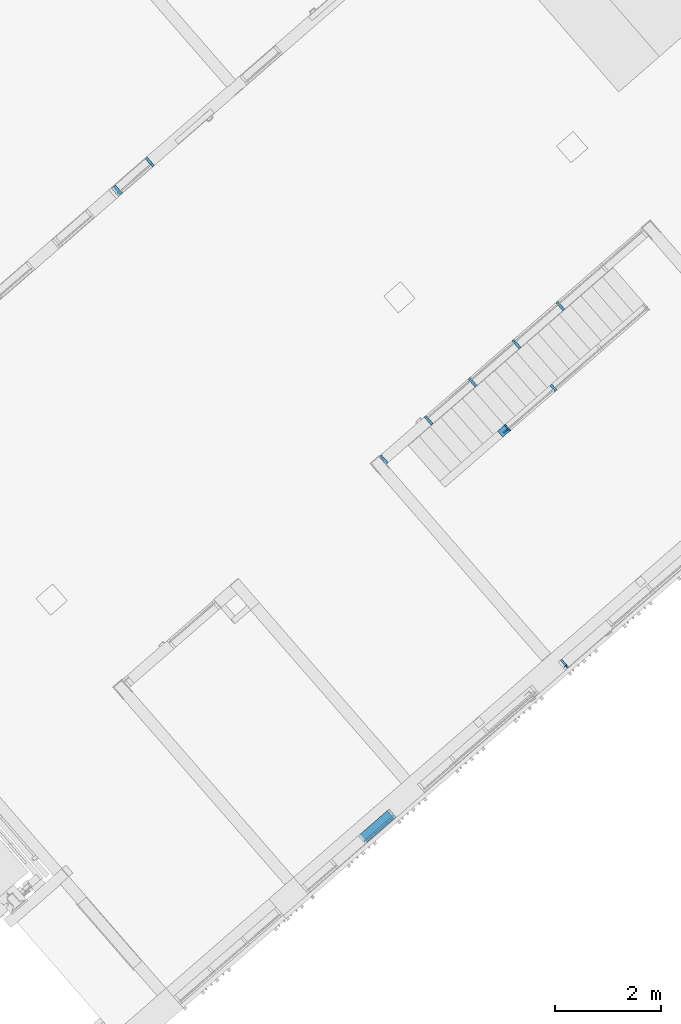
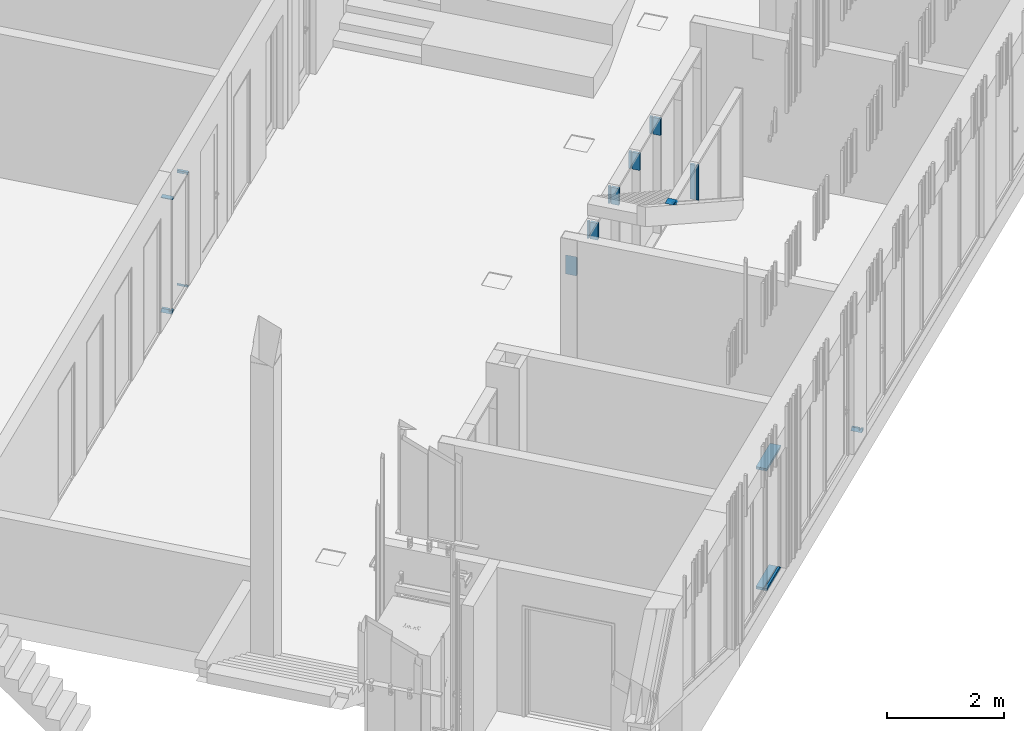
# One storey, part 15 of 124: 17 discrete accessories, 5 elements without a shape of their own.
"""IFC2X3 building model written with IfcOpenShell, lengths in millimetres."""

import ifcopenshell
import ifcopenshell.guid

model = None  # the IFC model being written
_history = None  # IfcOwnerHistory: only IFC2X3 demands one
_inside = {}  # id of a spatial element -> (the spatial element, [elements in it])
_under = {}  # id of a project, library or spatial element -> (it, [spatial elements below it])
_declared = {}  # id of a project -> (the project, [libraries it declares])
_typed = {}  # id of a type object -> (the type object, [elements of that type])
_made_of = {}  # id of a material, layer set ... -> (it, [elements and type objects made of it])


def new_model(schema):
    """Start an empty IFC model of exactly this schema.

    Asked for "IFC4X3", IfcOpenShell would pick the latest addendum, in which some entities
    have other attributes; the version numbers below select the first issue.
    IFC2X3 requires an IfcOwnerHistory on every rooted entity: one is made here for all.
    """
    global model, _history
    if schema == "IFC4X3":
        model = ifcopenshell.file(schema_version=(4, 3, 0, 0))
    else:
        model = ifcopenshell.file(schema=schema)
    _inside.clear()
    _under.clear()
    _declared.clear()
    _typed.clear()
    _made_of.clear()
    _history = None
    if model.schema == "IFC2X3":
        org = make("IfcOrganization", Name="unknown")
        user = make(
            "IfcPersonAndOrganization",
            ThePerson=make("IfcPerson", FamilyName="unknown"),
            TheOrganization=org,
        )
        app = make(
            "IfcApplication",
            ApplicationDeveloper=org,
            Version="unknown",
            ApplicationFullName="unknown",
            ApplicationIdentifier="unknown",
        )
        _history = make(
            "IfcOwnerHistory",
            OwningUser=user,
            OwningApplication=app,
            ChangeAction="ADDED",
            CreationDate=0,
        )
    return model


def make(cls, **values):
    """One entity of the class cls with the attributes given. An attribute that is None is left unset."""
    return model.create_entity(
        cls, **{name: value for name, value in values.items() if value is not None}
    )


def entity(cls, *values):
    """Any entity or typed value of the class cls, its attributes in the order of the schema. None: left unset."""
    e = model.create_entity(cls)
    for i, value in enumerate(values):
        if value is not None:
            e[i] = value
    return e


def rooted(cls, **values):
    """An entity with a GlobalId (a new one), such as an element, a storey or a relation."""
    return make(cls, GlobalId=ifcopenshell.guid.new(), OwnerHistory=_history, **values)


def si_unit(unit_type, name, prefix=None):
    """IfcSIUnit, for example si_unit("LENGTHUNIT", "METRE", prefix="MILLI")."""
    return make("IfcSIUnit", UnitType=unit_type, Prefix=prefix, Name=name)


def converted_unit(unit_type, name, factor, base, dimensions=None, offset=None):
    """IfcConversionBasedUnit, such as the inch: factor (a typed value) times the base unit."""
    return make(
        "IfcConversionBasedUnit"
        if offset is None
        else "IfcConversionBasedUnitWithOffset",
        ConversionOffset=offset,
        Dimensions=None
        if dimensions is None
        else entity("IfcDimensionalExponents", *dimensions),
        UnitType=unit_type,
        Name=name,
        ConversionFactor=make(
            "IfcMeasureWithUnit", ValueComponent=factor, UnitComponent=base
        ),
    )


def derived_unit(unit_type, elements):
    """IfcDerivedUnit: a product of units, each with its exponent."""
    return make(
        "IfcDerivedUnit",
        Elements=[
            make("IfcDerivedUnitElement", Unit=unit, Exponent=power)
            for unit, power in elements
        ],
        UnitType=unit_type,
    )


def money_unit(currency):
    """IfcMonetaryUnit."""
    return make("IfcMonetaryUnit", Currency=currency)


def assignment(units):
    """IfcUnitAssignment: the units of a project."""
    return None if units is None else make("IfcUnitAssignment", Units=units)


def point(xyz):
    """IfcCartesianPoint."""
    return None if xyz is None else make("IfcCartesianPoint", Coordinates=xyz)


def direction(xyz):
    """IfcDirection."""
    return None if xyz is None else make("IfcDirection", DirectionRatios=xyz)


def frame(location, z_axis=None, x_axis=None):
    """IfcAxis2Placement3D, a coordinate frame: its origin and axes. An axis left out is left unset."""
    return make(
        "IfcAxis2Placement3D",
        Location=point(location),
        Axis=direction(z_axis),
        RefDirection=direction(x_axis),
    )


def origin_with_axes():
    """The frame at (0, 0, 0) with the z axis (0, 0, 1) and the x axis (1, 0, 0) written out."""
    return frame((0.0, 0.0, 0.0), z_axis=(0.0, 0.0, 1.0), x_axis=(1.0, 0.0, 0.0))


def place(relative_to, where):
    """IfcLocalPlacement: puts the frame where relative to a parent placement (None: the world)."""
    return make(
        "IfcLocalPlacement", PlacementRelTo=relative_to, RelativePlacement=where
    )


def context(
    kind, dimensions, precision=None, world=None, true_north=None, identifier=None
):
    """IfcGeometricRepresentationContext, for example the 3D "Model" context."""
    return make(
        "IfcGeometricRepresentationContext",
        ContextIdentifier=identifier,
        ContextType=kind,
        CoordinateSpaceDimension=dimensions,
        Precision=precision,
        WorldCoordinateSystem=world,
        TrueNorth=true_north,
    )


def subcontext(parent, identifier, kind, view, scale=None):
    """IfcGeometricRepresentationSubContext, for example "Body" below "Model"."""
    return make(
        "IfcGeometricRepresentationSubContext",
        ContextIdentifier=identifier,
        ContextType=kind,
        ParentContext=parent,
        TargetScale=scale,
        TargetView=view,
    )


def project(units=None, contexts=None):
    """IfcProject with its units and contexts."""
    return rooted(
        "IfcProject",
        Name="project",
        RepresentationContexts=contexts,
        UnitsInContext=assignment(units),
    )


def spatial(cls, under=None, at=None, **own):
    """A site, building, storey or space (cls), placed at a placement, below another one or the project."""
    s = rooted(cls, ObjectPlacement=at, **own)
    if under is not None:
        _under.setdefault(under.id(), (under, []))[1].append(s)
    return s


def polyline(points):
    """IfcPolyline through the points."""
    return make("IfcPolyline", Points=[point(p) for p in points])


def outline(outer, holes=None, kind="AREA"):
    """IfcArbitraryClosedProfileDef: a profile drawn as a closed curve; with holes, ...WithVoids."""
    if holes is None:
        return make("IfcArbitraryClosedProfileDef", ProfileType=kind, OuterCurve=outer)
    return make(
        "IfcArbitraryProfileDefWithVoids",
        ProfileType=kind,
        OuterCurve=outer,
        InnerCurves=holes,
    )


def extrude(swept, where, along, depth):
    """IfcExtrudedAreaSolid: the profile swept, set in the frame where, extruded along a direction by depth."""
    return make(
        "IfcExtrudedAreaSolid",
        SweptArea=swept,
        Position=where,
        ExtrudedDirection=direction(along),
        Depth=depth,
    )


def clip(a, b, op="DIFFERENCE"):
    """IfcBooleanClippingResult: the solid a cut by the half space b."""
    return make(
        "IfcBooleanClippingResult", Operator=op, FirstOperand=a, SecondOperand=b
    )


def halfspace(plane, agree):
    """IfcHalfSpaceSolid: all space on one side of the plane z = 0 of the frame plane."""
    return make(
        "IfcHalfSpaceSolid",
        BaseSurface=make("IfcPlane", Position=plane),
        AgreementFlag=agree,
    )


def shape(context_of_items, identifier, shape_type, items):
    """IfcShapeRepresentation: the items that make up one representation, for example the "Body"."""
    return make(
        "IfcShapeRepresentation",
        ContextOfItems=context_of_items,
        RepresentationIdentifier=identifier,
        RepresentationType=shape_type,
        Items=items,
    )


def material(Name=None, Category=None):
    """IfcMaterial."""
    return make("IfcMaterial", Name=Name, Category=Category)


def material_list(materials):
    """IfcMaterialList."""
    return make("IfcMaterialList", Materials=materials)


def made_of(thing, what):
    """Note that an element or type object is made of a material, layer set ...; save() writes the relation."""
    if what is not None:
        _made_of.setdefault(what.id(), (what, []))[1].append(thing)
    return thing


def type_object(cls, material=None, **own):
    """A type object (cls), such as IfcWallType, which elements share."""
    return made_of(rooted(cls, **own), material)


def element(
    cls,
    number,
    at=None,
    inside=None,
    cuts=None,
    type_object=None,
    material=None,
    context=None,
    identifier="Body",
    shape_type=None,
    held_by="IfcProductDefinitionShape",
    body=None,
    shapes=None,
    **own,
):
    """One element of the class cls, such as IfcWall. Its Tag is "e" and its number.

    at: its placement. inside: the storey or other place that contains it. cuts: it is an
    opening in that element (IfcRelVoidsElement). A single representation is given by context,
    identifier, shape_type and body (its items); several are given by shapes. held_by: the class
    of the entity that holds the representations. save() writes the other relations.
    """
    e = rooted(cls, Tag="e%d" % number, ObjectPlacement=at, **own)
    if body is not None:
        shapes = [shape(context, identifier, shape_type, body)]
    if shapes is not None:
        e.Representation = make(held_by, Representations=shapes)
    if inside is not None:
        _inside.setdefault(inside.id(), (inside, []))[1].append(e)
    if cuts is not None:
        rooted(
            "IfcRelVoidsElement", RelatingBuildingElement=cuts, RelatedOpeningElement=e
        )
    if type_object is not None:
        _typed.setdefault(type_object.id(), (type_object, []))[1].append(e)
    return made_of(e, material)


def aggregate(whole, parts):
    """IfcRelAggregates: a whole, such as a stair, and the parts it consists of."""
    return rooted("IfcRelAggregates", RelatingObject=whole, RelatedObjects=parts)


def save(model, path):
    """Write the relations noted so far, then the file.

    IfcRelAggregates (storeys below a building ...), IfcRelContainedInSpatialStructure (elements
    in a storey), IfcRelDefinesByType, IfcRelAssociatesMaterial and IfcRelDeclares: one each for
    every whole, place, type object, material and project.
    """
    for whole, parts in _under.values():
        aggregate(whole, parts)
    for where, things in _inside.values():
        rooted(
            "IfcRelContainedInSpatialStructure",
            RelatedElements=things,
            RelatingStructure=where,
        )
    for kind, things in _typed.values():
        rooted("IfcRelDefinesByType", RelatedObjects=things, RelatingType=kind)
    for what, things in _made_of.values():
        rooted("IfcRelAssociatesMaterial", RelatedObjects=things, RelatingMaterial=what)
    for by, libraries in _declared.values():
        rooted("IfcRelDeclares", RelatingContext=by, RelatedDefinitions=libraries)
    model.write(path)


model = new_model("IFC2X3")

# Units and contexts
model_context = context("Model", 3, precision=1e-05, world=origin_with_axes(), true_north=direction((0.0, 1.0)))
body_context = subcontext(model_context, "Body", "Model", "MODEL_VIEW")
ifc_project = project(units=[si_unit("LENGTHUNIT", "METRE", prefix="MILLI"), si_unit("AREAUNIT", "SQUARE_METRE"), si_unit("VOLUMEUNIT", "CUBIC_METRE"), converted_unit("PLANEANGLEUNIT", "DEGREE", entity("IfcPlaneAngleMeasure", 0.0174532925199), si_unit("PLANEANGLEUNIT", "RADIAN"), dimensions=[0, 0, 0, 0, 0, 0, 0]), si_unit("SOLIDANGLEUNIT", "STERADIAN"), money_unit("EUR"), converted_unit("TIMEUNIT", "Year", entity("IfcTimeMeasure", 31556926.0), si_unit("TIMEUNIT", "SECOND"), dimensions=[0, 0, 1, 0, 0, 0, 0]), si_unit("MASSUNIT", "GRAM", prefix="KILO"), si_unit("THERMODYNAMICTEMPERATUREUNIT", "DEGREE_CELSIUS"), si_unit("LUMINOUSINTENSITYUNIT", "LUMEN"), si_unit("ENERGYUNIT", "JOULE", prefix="MEGA"), derived_unit("THERMALCONDUCTANCEUNIT", [(si_unit("POWERUNIT", "WATT"), 1), (si_unit("LENGTHUNIT", "METRE"), -1), (si_unit("THERMODYNAMICTEMPERATUREUNIT", "KELVIN"), -1)]), derived_unit("SPECIFICHEATCAPACITYUNIT", [(si_unit("ENERGYUNIT", "JOULE"), 1), (si_unit("MASSUNIT", "GRAM", prefix="KILO"), -1), (si_unit("THERMODYNAMICTEMPERATUREUNIT", "KELVIN"), -1)]), derived_unit("MASSDENSITYUNIT", [(si_unit("MASSUNIT", "GRAM", prefix="KILO"), 1), (si_unit("VOLUMEUNIT", "CUBIC_METRE"), -1)])], contexts=[model_context])

# Site, building, storey
site_placement = place(None, origin_with_axes())
site = spatial("IfcSite", under=ifc_project, at=site_placement, Name="Site", CompositionType="ELEMENT")
building_placement = place(site_placement, origin_with_axes())
building = spatial("IfcBuilding", under=site, at=building_placement, Name="Building", CompositionType="ELEMENT")
storey_placement = place(building_placement, frame((0.0, 0.0, -1615.0), z_axis=(0.0, 0.0, 1.0), x_axis=(1.0, 0.0, 0.0)))
storey = spatial("IfcBuildingStorey", under=building, at=storey_placement, Name="0  korrus", CompositionType="ELEMENT", Elevation=-1615.0)

# Curtain wall, discrete accessories
curtain_wall_type_1 = type_object("IfcCurtainWallType", Name="KS-07", PredefinedType="NOTDEFINED")
curtain_wall_1_placement = place(storey_placement, frame((149951.417943, 91506.9576387, 0.0), z_axis=(0.0, 0.0, 1.0), x_axis=(1.0, 0.0, 0.0)))
curtain_wall_1 = element("IfcCurtainWall", 1, at=curtain_wall_1_placement, inside=storey, type_object=curtain_wall_type_1, Name="Klaas-sein")
ifc_material_1 = material(Name="Aluminium MUST")
ifc_material_list_1 = material_list([ifc_material_1, ifc_material_1, ifc_material_1])
discrete_accessory_type_1 = type_object("IfcDiscreteAccessoryType", Name="50 x 200")
discrete_accessory_1_placement = place(curtain_wall_1_placement, frame((330.185462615, 287.025843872, 2400.00001788), z_axis=(-0.754709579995, -0.656059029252, 0.0), x_axis=(0.0, 0.0, -1.0)))
discrete_accessory_1 = element("IfcDiscreteAccessory", 2, at=discrete_accessory_1_placement, type_object=discrete_accessory_type_1, material=ifc_material_list_1, Name="KS-07 profiil", context=body_context, shape_type="Clipping", body=[
    clip(extrude(outline(polyline([(9.99999999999, 25.0), (-9.99999999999, 25.0), (-9.99999999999, 0.0), (9.99999999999, 0.0), (9.99999999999, 25.0)])), frame((0.0, 0.0, 0.0), z_axis=(0.0, 0.0, 1.0), x_axis=(0.0, -1.0, 0.0)), (0.0, 0.0, 1.0), 50.0000298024), halfspace(frame((0.0, 0.0, 0.0), z_axis=(-0.707106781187, 0.0, 0.707106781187), x_axis=(0.0, -1.0, 0.0)), True)),
    clip(extrude(outline(polyline([(150.0, 50.0), (9.99999999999, 50.0), (9.99999999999, 0.0), (150.0, 0.0), (150.0, 50.0)])), frame((0.0, 0.0, 0.0), z_axis=(0.0, 0.0, 1.0), x_axis=(0.0, -1.0, 0.0)), (0.0, 0.0, 1.0), 50.0000298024), halfspace(frame((0.0, 0.0, 0.0), z_axis=(-0.707106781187, 0.0, 0.707106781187), x_axis=(0.0, -1.0, 0.0)), True)),
    clip(extrude(outline(polyline([(-50.0, 0.0), (-9.99999999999, 0.0), (-9.99999999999, 50.0), (-50.0, 50.0), (-50.0, 0.0)])), frame((0.0, 0.0, 0.0), z_axis=(0.0, 0.0, 1.0), x_axis=(0.0, -1.0, 0.0)), (0.0, 0.0, 1.0), 50.0000298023), halfspace(frame((0.0, 0.0, 0.0), z_axis=(-0.707106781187, 0.0, 0.707106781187), x_axis=(0.0, -1.0, 0.0)), True)),
])
discrete_accessory_2_placement = place(curtain_wall_1_placement, frame((292.449961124, 254.222872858, 0.0), z_axis=(0.754709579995, 0.656059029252, 0.0), x_axis=(0.0, 0.0, 1.0)))
discrete_accessory_2 = element("IfcDiscreteAccessory", 3, at=discrete_accessory_2_placement, type_object=discrete_accessory_type_1, material=ifc_material_list_1, Name="KS-07 profiil", context=body_context, shape_type="Clipping", body=[
    clip(extrude(outline(polyline([(-10.0, -25.0), (9.99999999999, -25.0), (10.0, 0.0), (-10.0, 0.0), (-10.0, -25.0)])), frame((0.0, 0.0, 0.0), z_axis=(0.0, 0.0, 1.0), x_axis=(0.0, 1.0, 0.0)), (0.0, 0.0, 1.0), 50.0000298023), halfspace(frame((25.0000149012, 0.0, 25.0000149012), z_axis=(-0.707106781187, 0.0, -0.707106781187), x_axis=(0.0, 1.0, 0.0)), True)),
    clip(extrude(outline(polyline([(-150.0, -50.0), (-10.0, -50.0), (-10.0, 0.0), (-150.0, 0.0), (-150.0, -50.0)])), frame((0.0, 0.0, 0.0), z_axis=(0.0, 0.0, 1.0), x_axis=(0.0, 1.0, 0.0)), (0.0, 0.0, 1.0), 50.0000298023), halfspace(frame((25.0000149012, 0.0, 25.0000149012), z_axis=(-0.707106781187, 0.0, -0.707106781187), x_axis=(0.0, 1.0, 0.0)), True)),
    clip(extrude(outline(polyline([(50.0, 0.0), (10.0, 0.0), (9.99999999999, -50.0), (50.0, -50.0), (50.0, 0.0)])), frame((0.0, 0.0, 0.0), z_axis=(0.0, 0.0, 1.0), x_axis=(0.0, 1.0, 0.0)), (0.0, 0.0, 1.0), 50.0000298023), halfspace(frame((25.0000149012, 0.0, 25.0000149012), z_axis=(-0.707106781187, 0.0, -0.707106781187), x_axis=(0.0, 1.0, 0.0)), True)),
])
discrete_accessory_3_placement = place(curtain_wall_1_placement, frame((-273.582223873, -237.821399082, 2400.00001788), z_axis=(-0.754709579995, -0.656059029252, 0.0), x_axis=(0.0, 0.0, -1.0)))
discrete_accessory_3 = element("IfcDiscreteAccessory", 4, at=discrete_accessory_3_placement, type_object=discrete_accessory_type_1, material=ifc_material_list_1, Name="KS-07 profiil", context=body_context, shape_type="Clipping", body=[
    clip(extrude(outline(polyline([(10.0, 25.0), (-10.0, 25.0), (-9.99999999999, 0.0), (9.99999999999, 0.0), (10.0, 25.0)])), frame((0.0, 0.0, 0.0), z_axis=(0.0, 0.0, 1.0), x_axis=(0.0, -1.0, 0.0)), (0.0, 0.0, 1.0), 100.000023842), halfspace(frame((50.0000119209, 0.0, 50.0000119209), z_axis=(-0.707106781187, 0.0, -0.707106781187), x_axis=(0.0, 1.0, 0.0)), True)),
    clip(extrude(outline(polyline([(150.0, 50.0), (9.99999999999, 50.0), (9.99999999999, 0.0), (150.0, 0.0), (150.0, 50.0)])), frame((0.0, 0.0, 0.0), z_axis=(0.0, 0.0, 1.0), x_axis=(0.0, -1.0, 0.0)), (0.0, 0.0, 1.0), 100.000023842), halfspace(frame((50.0000119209, 0.0, 50.0000119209), z_axis=(-0.707106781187, 0.0, -0.707106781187), x_axis=(0.0, 1.0, 0.0)), True)),
    clip(extrude(outline(polyline([(-50.0, 0.0), (-9.99999999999, 0.0), (-9.99999999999, 50.0), (-50.0, 50.0), (-50.0, 0.0)])), frame((0.0, 0.0, 0.0), z_axis=(0.0, 0.0, 1.0), x_axis=(0.0, -1.0, 0.0)), (0.0, 0.0, 1.0), 100.000023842), halfspace(frame((50.0000119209, 0.0, 50.0000119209), z_axis=(-0.707106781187, 0.0, -0.707106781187), x_axis=(0.0, 1.0, 0.0)), True)),
])
discrete_accessory_4_placement = place(curtain_wall_1_placement, frame((-349.053199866, -303.427317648, 0.0), z_axis=(0.754709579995, 0.656059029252, 0.0), x_axis=(0.0, 0.0, 1.0)))
discrete_accessory_4 = element("IfcDiscreteAccessory", 5, at=discrete_accessory_4_placement, type_object=discrete_accessory_type_1, material=ifc_material_list_1, Name="KS-07 profiil", context=body_context, shape_type="Clipping", body=[
    clip(extrude(outline(polyline([(-10.0, -25.0), (9.99999999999, -25.0), (9.99999999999, 0.0), (-10.0, 0.0), (-10.0, -25.0)])), frame((0.0, 0.0, 0.0), z_axis=(0.0, 0.0, 1.0), x_axis=(0.0, 1.0, 0.0)), (0.0, 0.0, 1.0), 100.000023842), halfspace(frame((0.0, 0.0, 0.0), z_axis=(-0.707106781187, 0.0, 0.707106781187), x_axis=(0.0, -1.0, 0.0)), True)),
    clip(extrude(outline(polyline([(-150.0, -50.0), (-10.0, -50.0), (-10.0, 0.0), (-150.0, 0.0), (-150.0, -50.0)])), frame((0.0, 0.0, 0.0), z_axis=(0.0, 0.0, 1.0), x_axis=(0.0, 1.0, 0.0)), (0.0, 0.0, 1.0), 100.000023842), halfspace(frame((0.0, 0.0, 0.0), z_axis=(-0.707106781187, 0.0, 0.707106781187), x_axis=(0.0, -1.0, 0.0)), True)),
    clip(extrude(outline(polyline([(50.0, 0.0), (9.99999999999, 0.0), (9.99999999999, -50.0), (50.0, -50.0), (50.0, 0.0)])), frame((0.0, 0.0, 0.0), z_axis=(0.0, 0.0, 1.0), x_axis=(0.0, 1.0, 0.0)), (0.0, 0.0, 1.0), 100.000023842), halfspace(frame((0.0, 0.0, 0.0), z_axis=(-0.707106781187, 0.0, 0.707106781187), x_axis=(0.0, -1.0, 0.0)), True)),
])
aggregate(curtain_wall_1, [discrete_accessory_1, discrete_accessory_2, discrete_accessory_3, discrete_accessory_4])

# Curtain wall, discrete accessory
curtain_wall_type_2 = type_object("IfcCurtainWallType", Name="KLF-04", PredefinedType="NOTDEFINED")
curtain_wall_2_placement = place(storey_placement, frame((162346.343492, 85970.7645105, 0.0), z_axis=(0.0, 0.0, 1.0), x_axis=(1.0, 0.0, 0.0)))
curtain_wall_2 = element("IfcCurtainWall", 6, at=curtain_wall_2_placement, inside=storey, type_object=curtain_wall_type_2, Name="Klaasfassaad")
discrete_accessory_type_2 = type_object("IfcDiscreteAccessoryType", Name="50 x 200")
discrete_accessory_5_placement = place(curtain_wall_2_placement, frame((-4290.53742954, -3729.68008892, 0.0), z_axis=(0.754711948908, 0.65605630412, 0.0), x_axis=(0.0, 0.0, 1.0)))
discrete_accessory_5 = element("IfcDiscreteAccessory", 7, at=discrete_accessory_5_placement, type_object=discrete_accessory_type_2, Name="KLF-04 profiil", context=body_context, shape_type="Clipping", body=[
    clip(extrude(outline(polyline([(-10.0, -25.0), (10.0, -25.0), (10.0, 0.0), (-10.0, 0.0), (-10.0, -25.0)])), frame((0.0, 0.0, 0.0), z_axis=(0.0, 0.0, 1.0), x_axis=(0.0, 1.0, 0.0)), (0.0, 0.0, 1.0), 88.2883319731), halfspace(frame((0.0, 0.0, 0.0), z_axis=(-0.707106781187, 0.0, 0.707106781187), x_axis=(0.0, -1.0, 0.0)), True)),
    clip(extrude(outline(polyline([(-150.0, -50.0), (-10.0, -50.0), (-10.0, 0.0), (-150.0, 0.0), (-150.0, -50.0)])), frame((0.0, 0.0, 0.0), z_axis=(0.0, 0.0, 1.0), x_axis=(0.0, 1.0, 0.0)), (0.0, 0.0, 1.0), 88.2883319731), halfspace(frame((0.0, 0.0, 0.0), z_axis=(-0.707106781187, 0.0, 0.707106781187), x_axis=(0.0, -1.0, 0.0)), True)),
    clip(extrude(outline(polyline([(50.0, 0.0), (10.0, 0.0), (10.0, -50.0), (50.0, -50.0), (50.0, 0.0)])), frame((0.0, 0.0, 0.0), z_axis=(0.0, 0.0, 1.0), x_axis=(0.0, 1.0, 0.0)), (0.0, 0.0, 1.0), 88.2883319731), halfspace(frame((0.0, 0.0, 0.0), z_axis=(-0.707106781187, 0.0, 0.707106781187), x_axis=(0.0, -1.0, 0.0)), True)),
])
aggregate(curtain_wall_2, [discrete_accessory_5])

# Curtain wall, discrete accessories
curtain_wall_type_3 = type_object("IfcCurtainWallType", Name="KS-14", PredefinedType="NOTDEFINED")
curtain_wall_3_placement = place(storey_placement, frame((158378.483684, 89491.1525306, -3.95351700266e-05), z_axis=(0.0, 0.0, 1.0), x_axis=(1.0, 0.0, 0.0)))
curtain_wall_3 = element("IfcCurtainWall", 8, at=curtain_wall_3_placement, inside=storey, type_object=curtain_wall_type_3, Name="Klaas-sein")
ifc_material_list_2 = material_list([ifc_material_1, ifc_material_1])
discrete_accessory_type_3 = type_object("IfcDiscreteAccessoryType", Name="50 x 200")
discrete_accessory_6_placement = place(curtain_wall_3_placement, frame((-2075.45134472, -1804.16233075, 2100.00003954), z_axis=(0.0, 0.0, 1.0), x_axis=(0.754709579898, 0.656059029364, 0.0)))
discrete_accessory_6 = element("IfcDiscreteAccessory", 9, at=discrete_accessory_6_placement, type_object=discrete_accessory_type_3, material=ifc_material_list_2, Name="KS-14 profiil", context=body_context, shape_type="SweptSolid", body=[
    extrude(outline(polyline([(-12.3071492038, -23.9485715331), (79.5411149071, -129.607912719), (117.276593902, -96.8049612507), (25.4283297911, 8.85437993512), (-12.3071492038, -23.9485715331)])), frame((0.0, 0.0, 0.0), z_axis=(0.0, 0.0, 1.0), x_axis=(0.754709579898, -0.656059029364, 0.0)), (0.0, 0.0, 1.0), 350.000032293),
    extrude(outline(polyline([(-25.4283297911, -8.85437993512), (12.3071492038, 23.9485715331), (-13.9352119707, 54.136954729), (-51.6706909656, 21.3340032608), (-25.4283297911, -8.85437993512)])), frame((0.0, 0.0, 0.0), z_axis=(0.0, 0.0, 1.0), x_axis=(0.754709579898, -0.656059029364, 0.0)), (0.0, 0.0, 1.0), 350.000032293),
])
discrete_accessory_7_placement = place(curtain_wall_3_placement, frame((-2905.63188261, -2525.82726305, 2100.00003954), z_axis=(0.0, 0.0, 1.0), x_axis=(0.754709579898, 0.656059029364, 0.0)))
discrete_accessory_7 = element("IfcDiscreteAccessory", 10, at=discrete_accessory_7_placement, type_object=discrete_accessory_type_3, material=ifc_material_list_2, Name="KS-14 profiil", context=body_context, shape_type="SweptSolid", body=[
    extrude(outline(polyline([(-12.3071492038, -23.9485715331), (79.5411149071, -129.607912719), (117.276593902, -96.8049612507), (25.4283297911, 8.85437993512), (-12.3071492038, -23.9485715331)])), frame((0.0, 0.0, 0.0), z_axis=(0.0, 0.0, 1.0), x_axis=(0.754709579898, -0.656059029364, 0.0)), (0.0, 0.0, 1.0), 350.000032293),
    extrude(outline(polyline([(-25.4283297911, -8.85437993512), (12.3071492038, 23.9485715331), (-13.9352119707, 54.136954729), (-51.6706909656, 21.3340032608), (-25.4283297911, -8.85437993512)])), frame((0.0, 0.0, 0.0), z_axis=(0.0, 0.0, 1.0), x_axis=(0.754709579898, -0.656059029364, 0.0)), (0.0, 0.0, 1.0), 350.000032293),
])
discrete_accessory_8_placement = place(curtain_wall_3_placement, frame((-3773.54789949, -3280.29514682, 2100.00003954), z_axis=(0.0, 0.0, 1.0), x_axis=(0.754709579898, 0.656059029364, 0.0)))
discrete_accessory_8 = element("IfcDiscreteAccessory", 11, at=discrete_accessory_8_placement, type_object=discrete_accessory_type_3, Name="KS-14 profiil", context=body_context, shape_type="Clipping", body=[
    clip(extrude(outline(polyline([(25.4283297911, 8.85437993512), (12.3071492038, 23.9485715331), (-6.56059029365, 7.54709579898), (6.56059029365, -7.54709579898), (25.4283297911, 8.85437993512)])), frame((0.0, 0.0, 0.0), z_axis=(0.0, 0.0, 1.0), x_axis=(0.754709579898, -0.656059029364, 0.0)), (0.0, 0.0, 1.0), 400.000032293), halfspace(frame((200.000016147, 0.0, 200.000016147), z_axis=(-0.707106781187, 0.0, -0.707106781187), x_axis=(0.0, 1.0, 0.0)), True)),
    clip(extrude(outline(polyline([(136.144333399, -80.4034855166), (44.2960692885, 25.2558556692), (6.56059029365, -7.54709579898), (98.4088544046, -113.206436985), (136.144333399, -80.4034855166)])), frame((0.0, 0.0, 0.0), z_axis=(0.0, 0.0, 1.0), x_axis=(0.754709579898, -0.656059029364, 0.0)), (0.0, 0.0, 1.0), 400.000032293), halfspace(frame((200.000016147, 0.0, 200.000016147), z_axis=(-0.707106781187, 0.0, -0.707106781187), x_axis=(0.0, 1.0, 0.0)), True)),
    clip(extrude(outline(polyline([(-32.8029514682, 37.7354789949), (-6.56059029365, 7.54709579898), (31.1748887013, 40.3500472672), (4.93252752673, 70.5384304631), (-32.8029514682, 37.7354789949)])), frame((0.0, 0.0, 0.0), z_axis=(0.0, 0.0, 1.0), x_axis=(0.754709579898, -0.656059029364, 0.0)), (0.0, 0.0, 1.0), 400.000032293), halfspace(frame((200.000016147, 0.0, 200.000016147), z_axis=(-0.707106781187, 0.0, -0.707106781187), x_axis=(0.0, 1.0, 0.0)), True)),
])
discrete_accessory_9_placement = place(curtain_wall_3_placement, frame((-1245.27080683, -1082.49739845, 2100.00003954), z_axis=(0.0, 0.0, 1.0), x_axis=(0.754709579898, 0.656059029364, 0.0)))
discrete_accessory_9 = element("IfcDiscreteAccessory", 12, at=discrete_accessory_9_placement, type_object=discrete_accessory_type_3, material=ifc_material_list_2, Name="KS-14 profiil", context=body_context, shape_type="SweptSolid", body=[
    extrude(outline(polyline([(-12.3071492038, -23.9485715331), (79.5411149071, -129.607912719), (117.276593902, -96.8049612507), (25.4283297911, 8.85437993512), (-12.3071492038, -23.9485715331)])), frame((0.0, 0.0, 0.0), z_axis=(0.0, 0.0, 1.0), x_axis=(0.754709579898, -0.656059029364, 0.0)), (0.0, 0.0, 1.0), 350.000032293),
    extrude(outline(polyline([(-25.4283297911, -8.85437993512), (12.3071492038, 23.9485715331), (-13.9352119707, 54.136954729), (-51.6706909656, 21.3340032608), (-25.4283297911, -8.85437993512)])), frame((0.0, 0.0, 0.0), z_axis=(0.0, 0.0, 1.0), x_axis=(0.754709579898, -0.656059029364, 0.0)), (0.0, 0.0, 1.0), 350.000032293),
])
discrete_accessory_10_placement = place(curtain_wall_3_placement, frame((-415.090268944, -360.83246615, 2100.00003954), z_axis=(0.0, 0.0, 1.0), x_axis=(0.754709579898, 0.656059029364, 0.0)))
discrete_accessory_10 = element("IfcDiscreteAccessory", 13, at=discrete_accessory_10_placement, type_object=discrete_accessory_type_3, material=ifc_material_list_2, Name="KS-14 profiil", context=body_context, shape_type="SweptSolid", body=[
    extrude(outline(polyline([(-12.3071492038, -23.9485715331), (79.5411149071, -129.607912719), (117.276593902, -96.8049612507), (25.4283297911, 8.85437993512), (-12.3071492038, -23.9485715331)])), frame((0.0, 0.0, 0.0), z_axis=(0.0, 0.0, 1.0), x_axis=(0.754709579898, -0.656059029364, 0.0)), (0.0, 0.0, 1.0), 350.000032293),
    extrude(outline(polyline([(-25.4283297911, -8.85437993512), (12.3071492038, 23.9485715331), (-13.9352119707, 54.136954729), (-51.6706909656, 21.3340032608), (-25.4283297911, -8.85437993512)])), frame((0.0, 0.0, 0.0), z_axis=(0.0, 0.0, 1.0), x_axis=(0.754709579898, -0.656059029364, 0.0)), (0.0, 0.0, 1.0), 350.000032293),
])
aggregate(curtain_wall_3, [discrete_accessory_6, discrete_accessory_7, discrete_accessory_8, discrete_accessory_9, discrete_accessory_10])

curtain_wall_type_4 = type_object("IfcCurtainWallType", Name="KLF-06", PredefinedType="NOTDEFINED")
curtain_wall_4_placement = place(storey_placement, frame((153469.056116, 78253.8889067, 0.0), z_axis=(0.0, 0.0, 1.0), x_axis=(1.0, 0.0, 0.0)))
curtain_wall_4 = element("IfcCurtainWall", 14, at=curtain_wall_4_placement, inside=storey, type_object=curtain_wall_type_4, Name="Klaasfassaad")
discrete_accessory_type_4 = type_object("IfcDiscreteAccessoryType", Name="50 x 200")
discrete_accessory_11_placement = place(curtain_wall_4_placement, frame((824.521688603, 716.742795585, 0.0), z_axis=(0.754710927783, 0.656057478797, 0.0), x_axis=(0.0, 0.0, 1.0)))
discrete_accessory_11 = element("IfcDiscreteAccessory", 15, at=discrete_accessory_11_placement, type_object=discrete_accessory_type_4, material=ifc_material_list_1, Name="KLF-06 profiil", context=body_context, shape_type="Clipping", body=[
    clip(extrude(outline(polyline([(-9.99999999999, -25.0), (9.99999999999, -25.0), (10.0, 0.0), (-10.0, 0.0), (-9.99999999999, -25.0)])), frame((0.0, 0.0, 0.0), z_axis=(0.0, 0.0, 1.0), x_axis=(0.0, 1.0, 0.0)), (0.0, 0.0, 1.0), 745.0), halfspace(frame((372.5, 0.0, 372.5), z_axis=(-0.707106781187, 0.0, -0.707106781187), x_axis=(0.0, 1.0, 0.0)), True)),
    clip(extrude(outline(polyline([(-150.0, -50.0), (-10.0, -50.0), (-10.0, 0.0), (-150.0, 0.0), (-150.0, -50.0)])), frame((0.0, 0.0, 0.0), z_axis=(0.0, 0.0, 1.0), x_axis=(0.0, 1.0, 0.0)), (0.0, 0.0, 1.0), 745.0), halfspace(frame((372.5, 0.0, 372.5), z_axis=(-0.707106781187, 0.0, -0.707106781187), x_axis=(0.0, 1.0, 0.0)), True)),
    clip(extrude(outline(polyline([(50.0, 0.0), (10.0, 0.0), (10.0, -50.0), (50.0, -50.0), (50.0, 0.0)])), frame((0.0, 0.0, 0.0), z_axis=(0.0, 0.0, 1.0), x_axis=(0.0, 1.0, 0.0)), (0.0, 0.0, 1.0), 745.0), halfspace(frame((372.5, 0.0, 372.5), z_axis=(-0.707106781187, 0.0, -0.707106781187), x_axis=(0.0, 1.0, 0.0)), True)),
])
discrete_accessory_12_placement = place(curtain_wall_4_placement, frame((824.521688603, 716.742795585, 2550.00001878), z_axis=(0.754710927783, 0.656057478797, 0.0), x_axis=(0.0, 0.0, 1.0)))
discrete_accessory_12 = element("IfcDiscreteAccessory", 16, at=discrete_accessory_12_placement, type_object=discrete_accessory_type_4, material=ifc_material_list_1, Name="KLF-06 profiil", context=body_context, shape_type="Clipping", body=[
    clip(extrude(outline(polyline([(-9.99999999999, 25.0), (-10.0, 0.0), (10.0, 0.0), (9.99999999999, 25.0), (-9.99999999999, 25.0)])), frame((0.0, 0.0, 0.0), z_axis=(0.0, 0.0, 1.0), x_axis=(0.0, 1.0, 0.0)), (0.0, 0.0, 1.0), 745.0), halfspace(frame((-372.5, 0.0, 372.5), z_axis=(0.707106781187, 0.0, -0.707106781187), x_axis=(0.0, 1.0, 0.0)), True)),
    clip(extrude(outline(polyline([(-150.0, 50.0), (-150.0, 0.0), (-10.0, 0.0), (-10.0, 50.0), (-150.0, 50.0)])), frame((0.0, 0.0, 0.0), z_axis=(0.0, 0.0, 1.0), x_axis=(0.0, 1.0, 0.0)), (0.0, 0.0, 1.0), 745.0), halfspace(frame((-372.5, 0.0, 372.5), z_axis=(0.707106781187, 0.0, -0.707106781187), x_axis=(0.0, 1.0, 0.0)), True)),
    clip(extrude(outline(polyline([(50.0, 0.0), (50.0, 50.0), (10.0, 50.0), (10.0, 0.0), (50.0, 0.0)])), frame((0.0, 0.0, 0.0), z_axis=(0.0, 0.0, 1.0), x_axis=(0.0, 1.0, 0.0)), (0.0, 0.0, 1.0), 745.0), halfspace(frame((-372.5, 0.0, 372.5), z_axis=(0.707106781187, 0.0, -0.707106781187), x_axis=(0.0, 1.0, 0.0)), True)),
])
aggregate(curtain_wall_4, [discrete_accessory_11, discrete_accessory_12])

curtain_wall_type_5 = type_object("IfcCurtainWallType", Name="KS-21", PredefinedType="NOTDEFINED")
curtain_wall_5_placement = place(storey_placement, frame((156960.91707, 86721.8655907, 170.75), z_axis=(0.0, 0.0, 1.0), x_axis=(1.0, 0.0, 0.0)))
curtain_wall_5 = element("IfcCurtainWall", 17, at=curtain_wall_5_placement, inside=storey, type_object=curtain_wall_type_5, Name="Klaas-sein")
ifc_material_2 = material(Name="Klaas")
discrete_accessory_type_5 = type_object("IfcDiscreteAccessoryType", Name="Distinct Panel 101 x 64 x 20")
discrete_accessory_13_placement = place(curtain_wall_5_placement, frame((0.0, 0.0, 2293.38285211), z_axis=(0.0, 0.0, 1.0), x_axis=(-0.75470957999, -0.656059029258, 0.0)))
discrete_accessory_13 = element("IfcDiscreteAccessory", 18, at=discrete_accessory_13_placement, type_object=discrete_accessory_type_5, material=ifc_material_2, Name="KS-21 klaaspakett", context=body_context, shape_type="SweptSolid", body=[
    extrude(outline(polyline([(-56.666810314, -15.8671509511), (44.3396778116, -15.8671509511), (-56.6668082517, 48.064716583), (-56.666810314, -15.8671509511)])), frame((0.0, -10.0, 0.0), z_axis=(0.0, 1.0, 0.0), x_axis=(1.0, 0.0, 0.0)), (0.0, 0.0, 1.0), 20.0),
])
discrete_accessory_type_6 = type_object("IfcDiscreteAccessoryType", Name="50 x 150")
discrete_accessory_14_placement = place(curtain_wall_5_placement, frame((-85.5339692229, -74.3535451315, 2329.25000358), z_axis=(0.637704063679, 0.554347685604, -0.534819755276), x_axis=(0.403633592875, 0.350873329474, 0.844966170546)))
discrete_accessory_14 = element("IfcDiscreteAccessory", 19, at=discrete_accessory_14_placement, type_object=discrete_accessory_type_6, material=ifc_material_1, Name="KS-21 profiil", context=body_context, shape_type="Clipping", body=[
    clip(extrude(outline(polyline([(-10.0, -25.0), (9.99999999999, -25.0), (10.0, -50.0), (50.0, -50.0), (50.0, 0.0), (-100.0, 0.0), (-100.0, -50.0), (-10.0, -50.0), (-10.0, -25.0)])), frame((0.0, 0.0, 0.0), z_axis=(0.0, 0.0, 1.0), x_axis=(0.0, 1.0, 0.0)), (0.0, 0.0, 1.0), 201.192000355), halfspace(frame((0.0, 0.0, 0.0), z_axis=(-0.960459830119, 0.0, 0.278418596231), x_axis=(0.0, -1.0, 0.0)), True)),
])
discrete_accessory_15_placement = place(curtain_wall_5_placement, frame((922.0036453, 801.485541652, 1484.26373816), z_axis=(0.0, 0.0, 1.0), x_axis=(-0.75470957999, -0.656059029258, 0.0)))
discrete_accessory_15 = element("IfcDiscreteAccessory", 20, at=discrete_accessory_15_placement, type_object=discrete_accessory_type_6, material=ifc_material_list_2, Name="KS-21 profiil", context=body_context, shape_type="Clipping", body=[
    clip(extrude(outline(polyline([(-84.4736424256, 59.0694822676), (-25.4283297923, -8.85437993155), (12.3071492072, 23.9485715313), (-46.7381634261, 91.8724337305), (-84.4736424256, 59.0694822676)])), frame((0.0, 0.0, 43.3502637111), z_axis=(0.0, 0.0, 1.0), x_axis=(-0.75470957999, 0.656059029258, 0.0)), (0.0, 0.0, 1.0), 751.636021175), halfspace(frame((-26.7409919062, 0.0, 42.2483059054), z_axis=(-0.534819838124, 0.0, 0.844966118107), x_axis=(0.0, -1.0, 0.0)), True)),
    clip(extrude(outline(polyline([(51.6706909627, -21.3340032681), (25.4283297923, 8.85437993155), (-12.3071492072, -23.9485715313), (13.9352119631, -54.136954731), (51.6706909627, -21.3340032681)])), frame((0.0, 0.0, 43.3502637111), z_axis=(0.0, 0.0, 1.0), x_axis=(-0.75470957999, 0.656059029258, 0.0)), (0.0, 0.0, 1.0), 751.636022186), halfspace(frame((-26.7409919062, 0.0, 42.2483059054), z_axis=(-0.534819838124, 0.0, 0.844966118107), x_axis=(0.0, -1.0, 0.0)), True)),
])
discrete_accessory_16_placement = place(curtain_wall_5_placement, frame((42.7669846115, 37.1767725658, 2329.25000358), z_axis=(-0.75470957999, -0.656059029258, 0.0), x_axis=(0.0, 0.0, -1.0)))
discrete_accessory_16 = element("IfcDiscreteAccessory", 21, at=discrete_accessory_16_placement, type_object=discrete_accessory_type_6, material=ifc_material_1, Name="KS-21 profiil", context=body_context, shape_type="Clipping", body=[
    clip(extrude(outline(polyline([(10.0, 25.0), (-9.99999999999, 25.0), (-9.99999999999, 49.2798136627), (-50.0, 49.2798136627), (-50.0, 0.0), (100.0, 0.0), (100.0, 49.2798136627), (10.0, 49.2798136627), (10.0, 25.0)])), frame((0.0, 0.0, -4.21323420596e-07), z_axis=(0.0, 0.0, 1.0), x_axis=(0.0, -1.0, 0.0)), (0.0, 0.0, 1.0), 170.000431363), halfspace(frame((45.4597944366, 0.0, 13.1779089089), z_axis=(-0.960459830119, 0.0, -0.278418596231), x_axis=(0.0, 1.0, 0.0)), True)),
])
discrete_accessory_17_placement = place(curtain_wall_5_placement, frame((42.7669846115, 37.1767725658, 2221.64854917), z_axis=(0.0, 0.0, 1.0), x_axis=(-0.75470957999, -0.656059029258, 0.0)))
discrete_accessory_17 = element("IfcDiscreteAccessory", 22, at=discrete_accessory_17_placement, type_object=discrete_accessory_type_6, material=ifc_material_list_2, Name="KS-21 profiil", context=body_context, shape_type="Clipping", body=[
    clip(extrude(outline(polyline([(-4.6855648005, 9.1770305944), (12.3071492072, 23.9485715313), (-46.7381634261, 91.8724337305), (-63.7308774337, 77.1008927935), (-4.6855648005, 9.1770305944)])), frame((0.0, 0.0, 43.3502638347), z_axis=(0.0, 0.0, 1.0), x_axis=(-0.75470957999, 0.656059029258, 0.0)), (0.0, 0.0, 1.0), 14.2511905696), halfspace(frame((-26.7409940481, 0.0, 42.2483045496), z_axis=(-0.534819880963, 0.0, 0.844966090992), x_axis=(0.0, -1.0, 0.0)), True)),
    clip(extrude(outline(polyline([(51.6706909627, -21.3340032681), (25.4283297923, 8.85437993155), (8.43561578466, -5.91716100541), (34.677976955, -36.105544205), (51.6706909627, -21.3340032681)])), frame((0.0, 0.0, 43.3502638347), z_axis=(0.0, 0.0, 1.0), x_axis=(-0.75470957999, 0.656059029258, 0.0)), (0.0, 0.0, 1.0), 14.2511905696), halfspace(frame((-26.7409940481, 0.0, 42.2483045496), z_axis=(-0.534819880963, 0.0, 0.844966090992), x_axis=(0.0, -1.0, 0.0)), True)),
])
aggregate(curtain_wall_5, [discrete_accessory_13, discrete_accessory_14, discrete_accessory_15, discrete_accessory_16, discrete_accessory_17])

save(model, "model.ifc")
